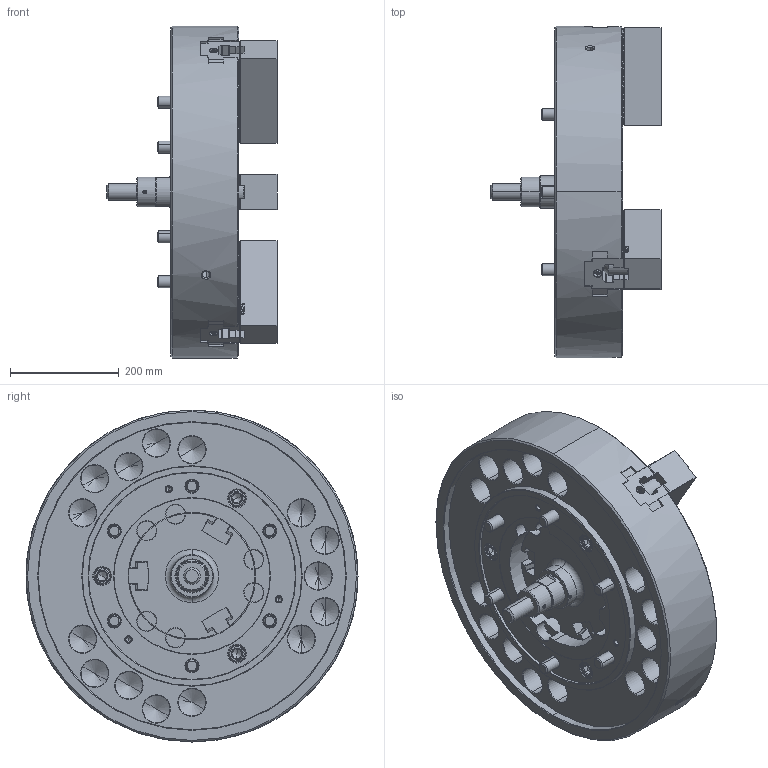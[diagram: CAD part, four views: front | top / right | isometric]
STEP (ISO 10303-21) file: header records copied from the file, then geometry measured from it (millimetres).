
FILE_DESCRIPTION (( 'STEP AP214' ), '1' );
FILE_NAME ('DT1_N-24_OUTSIDE_VIEW_HUL.STEP', '2026-03-19T01:34:57', ( '' ), ( '' ), 'SwSTEP 2.0', 'SolidWorks 2022', '' );
FILE_SCHEMA (( 'AUTOMOTIVE_DESIGN' ));
Length unit declared in the file: millimetre
Products named in the file (11): Copy of 61P321208^DT1_N-24; DT1_N-24_M6x12^DT1_N-24; DT1_N-24_OUTSIDE_VIEW_HUL; DT1_N-24_M20x60^DT1_N-24; DT1_N-24_SOFTJAW^DT1_N-24; DT1_N-24_BASE^DT1_N-24; DT1_N-24_M22x120^DT1_N-24; DT1_N-24_DRAWSCREW^DT1_N-24; DT1_N-24_COVER^DT1_N-24; DT1_N-24_TNUT^DT1_N-24; DT1_N-24_DN^DT1_N-24
Assembly tree (29 placements, depth 2):
  DT1_N-24_OUTSIDE_VIEW_HUL
    DT1_N-24_SOFTJAW^DT1_N-24  x3
    DT1_N-24_TNUT^DT1_N-24  x6
    DT1_N-24_COVER^DT1_N-24
    DT1_N-24_DRAWSCREW^DT1_N-24
    Copy of 61P321208^DT1_N-24
    DT1_N-24_DN^DT1_N-24
    DT1_N-24_BASE^DT1_N-24
    DT1_N-24_M6x12^DT1_N-24  x3
    DT1_N-24_M22x120^DT1_N-24  x6
    DT1_N-24_M20x60^DT1_N-24  x6
Bounding box: 313.56 x 610 x 610 mm (x, y, z)
Volume: 32960921.1 mm3; surface area: 1894080.1 mm2
Topology: 29 solids, 35 shells, 7941 faces, 22576 edges, 14844 vertices
Faces by surface type: plane 5019, cylinder 1502, bspline 836, cone 510, torus 68, sphere 6
Entity records: 221434 total; most frequent: CARTESIAN_POINT 70345, ORIENTED_EDGE 34292, DIRECTION 26664, EDGE_CURVE 17146, LINE 12900, VECTOR 12900, VERTEX_POINT 11318, AXIS2_PLACEMENT_3D 6882
